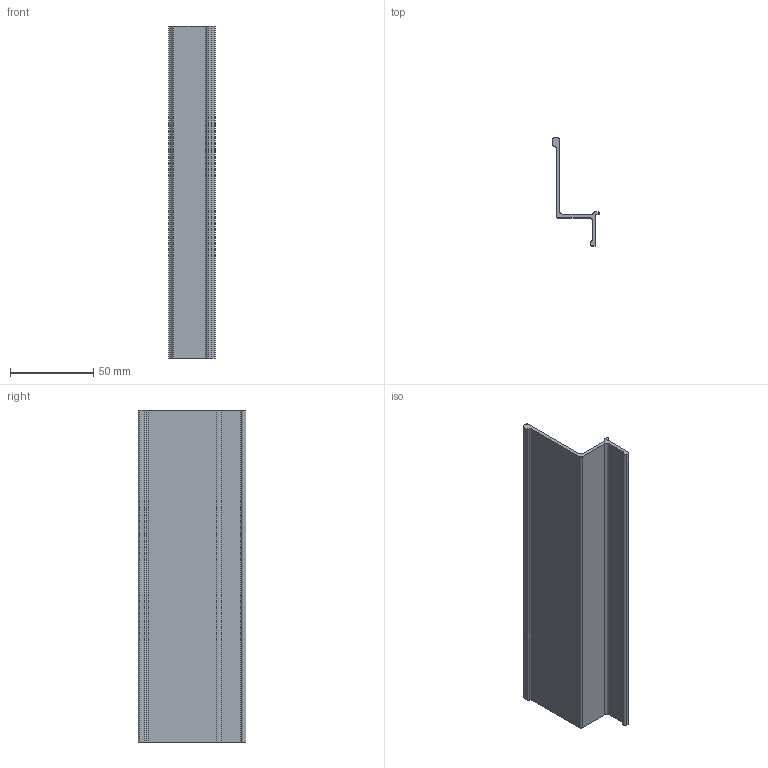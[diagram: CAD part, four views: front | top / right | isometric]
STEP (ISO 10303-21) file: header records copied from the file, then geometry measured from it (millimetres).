
FILE_DESCRIPTION((''),'2;1');
FILE_NAME('C:\Vault Klient\Projekt\Step\300-3060.stp','2009-12-08T07:55:15',('Mathias'),(''),'Autodesk Inventor 2010','Autodesk Inventor 2010','');
FILE_SCHEMA(('CONFIG_CONTROL_DESIGN'));
Length unit declared in the file: millimetre
Products named in the file (1): 300-3060
Bounding box: 28 x 65 x 200 mm (x, y, z)
Volume: 38670.7 mm3; surface area: 37406.8 mm2
Topology: 1 solids, 1 shells, 27 faces, 75 edges, 50 vertices
Faces by surface type: plane 14, cylinder 13
Entity records: 901 total; most frequent: DIRECTION 157, CARTESIAN_POINT 153, ORIENTED_EDGE 150, EDGE_CURVE 75, AXIS2_PLACEMENT_3D 54, VERTEX_POINT 50, VECTOR 49, LINE 49
